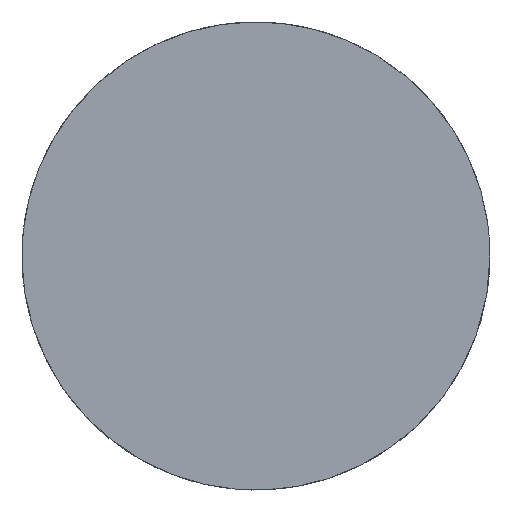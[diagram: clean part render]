
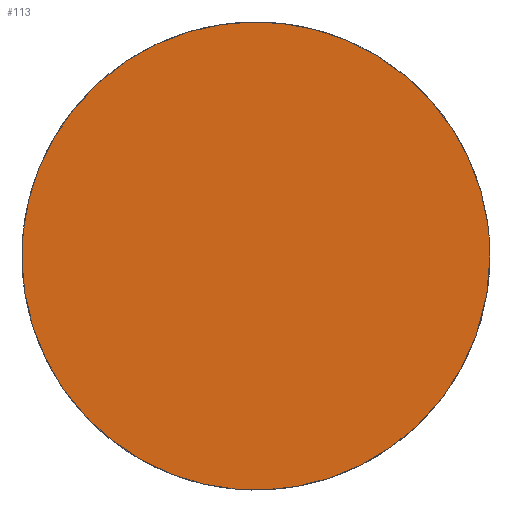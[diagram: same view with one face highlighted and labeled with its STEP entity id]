
A CAD part, top view. The second image highlights one B-rep face of the part: STEP entity #113.
In plain terms, the highlighted planar face has unit normal (0, 0, 1).
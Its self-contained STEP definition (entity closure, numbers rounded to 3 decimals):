
#113=ADVANCED_FACE('',(#157),#608,.T.);
#157=FACE_OUTER_BOUND('',#201,.T.);
#201=EDGE_LOOP('',(#248));
#248=ORIENTED_EDGE('',*,*,#400,.F.);
#400=EDGE_CURVE('',#556,#556,#546,.T.);
#546=(
BOUNDED_CURVE()
B_SPLINE_CURVE(2,(#778,#779,#780,#781,#782,#783,#784,#785,#786),
 .UNSPECIFIED.,.T.,.F.)
B_SPLINE_CURVE_WITH_KNOTS((3,2,2,2,3),(0.,1099.557,2199.115,
3298.672,4398.23),.UNSPECIFIED.)
CURVE()
GEOMETRIC_REPRESENTATION_ITEM()
RATIONAL_B_SPLINE_CURVE((1.,0.707,1.,0.707,1.,0.707,
1.,0.707,1.))
REPRESENTATION_ITEM('')
);
#556=VERTEX_POINT('',#776);
#608=PLANE('',#672);
#672=AXIS2_PLACEMENT_3D('',#774,#714,$);
#714=DIRECTION('',(0.,0.,1.));
#774=CARTESIAN_POINT('',(-700.,-700.,731.));
#776=CARTESIAN_POINT('',(700.,0.,731.));
#778=CARTESIAN_POINT('',(700.,0.,731.));
#779=CARTESIAN_POINT('',(700.,-700.,731.));
#780=CARTESIAN_POINT('',(0.,-700.,731.));
#781=CARTESIAN_POINT('',(-700.,-700.,731.));
#782=CARTESIAN_POINT('',(-700.,0.,731.));
#783=CARTESIAN_POINT('',(-700.,700.,731.));
#784=CARTESIAN_POINT('',(0.,700.,731.));
#785=CARTESIAN_POINT('',(700.,700.,731.));
#786=CARTESIAN_POINT('',(700.,0.,731.));
